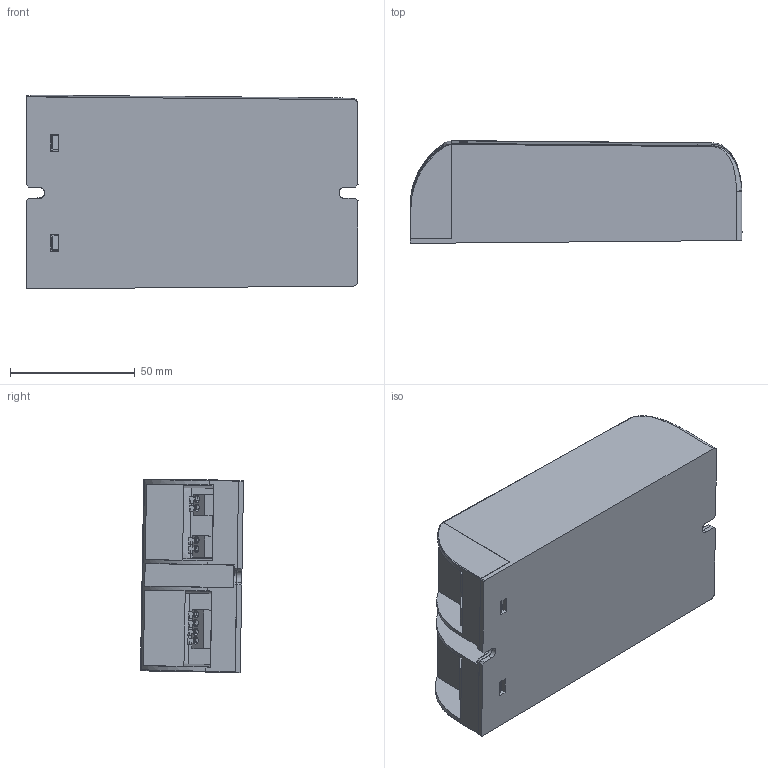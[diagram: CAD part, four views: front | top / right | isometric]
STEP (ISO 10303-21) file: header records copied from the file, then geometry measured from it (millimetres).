
FILE_DESCRIPTION((''),'2;1');
FILE_NAME('EUCI-075105GBA_ASM','2024-08-12T15:19:49',('ALBERT.LI'),(''),'CREO PARAMETRIC BY PTC INC, 2023294','CREO PARAMETRIC BY PTC INC, 2023294','');
FILE_SCHEMA(('CONFIG_CONTROL_DESIGN'));
Length unit declared in the file: millimetre
Products named in the file (12): BOARD_1; DG250-3_5-02P-11-00AH_1; CN1_ASM_1_ASM; CN2_ASM_1_ASM; DG250-3_5-04P-11-00AH_1; CN100_ASM_1_ASM; PCB_ASM_1_ASM; 29791631R1C0_ASM_1_ASM; PCB-ASSEMBLY_ASM; BASE; COVER; EUCI-075105GBA_ASM
Assembly tree (12 placements, depth 6):
  EUCI-075105GBA_ASM
    PCB-ASSEMBLY_ASM
      29791631R1C0_ASM_1_ASM
        PCB_ASM_1_ASM
          BOARD_1
          CN1_ASM_1_ASM
            DG250-3_5-02P-11-00AH_1
          CN2_ASM_1_ASM
            DG250-3_5-02P-11-00AH_1
          CN100_ASM_1_ASM
            DG250-3_5-04P-11-00AH_1
    BASE
    COVER
Bounding box: 133.02 x 41.32 x 77.7 mm (x, y, z)
Volume: 84516.5 mm3; surface area: 94846.8 mm2
Topology: 6 solids, 6 shells, 930 faces, 2678 edges, 1771 vertices
Faces by surface type: plane 730, cylinder 168, extrusion 12, bspline 10, cone 5, sphere 3, revolution 2
Entity records: 27424 total; most frequent: CARTESIAN_POINT 6769, ORIENTED_EDGE 4486, DIRECTION 3900, EDGE_CURVE 2243, VECTOR 1836, LINE 1826, VERTEX_POINT 1483, AXIS2_PLACEMENT_3D 1031
